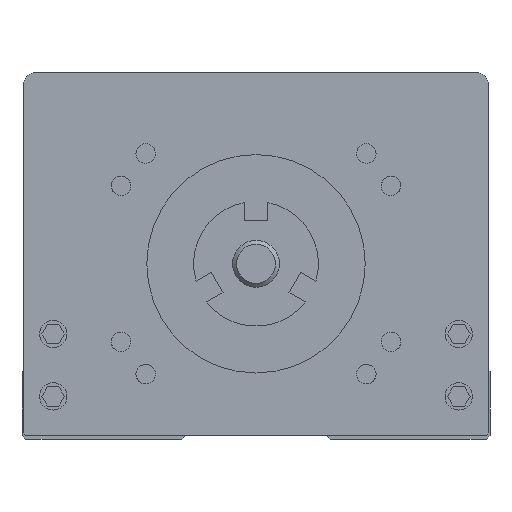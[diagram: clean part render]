
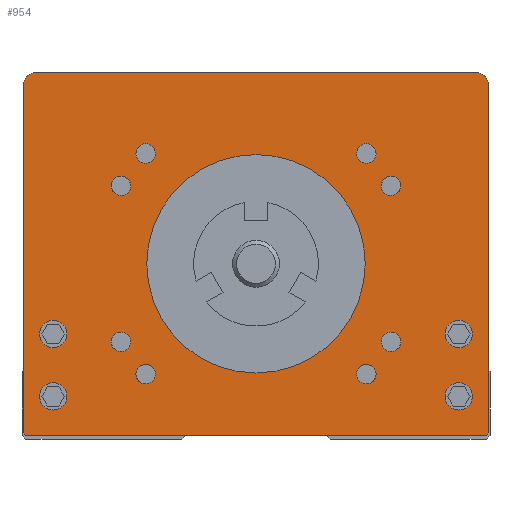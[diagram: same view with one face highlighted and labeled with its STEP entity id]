
A CAD part, front view. The second image highlights one B-rep face of the part: STEP entity #954.
In plain terms, the highlighted planar face has unit normal (0, -1, 0).
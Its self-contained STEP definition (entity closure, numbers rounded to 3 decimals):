
#646=FACE_BOUND('',#2184,.T.);
#647=FACE_BOUND('',#2185,.T.);
#648=FACE_BOUND('',#2186,.T.);
#649=FACE_BOUND('',#2187,.T.);
#650=FACE_BOUND('',#2188,.T.);
#651=FACE_BOUND('',#2189,.T.);
#652=FACE_BOUND('',#2190,.T.);
#653=FACE_BOUND('',#2191,.T.);
#654=FACE_BOUND('',#2192,.T.);
#655=FACE_BOUND('',#2193,.T.);
#656=FACE_BOUND('',#2194,.T.);
#657=FACE_BOUND('',#2195,.T.);
#658=FACE_BOUND('',#2196,.T.);
#659=FACE_BOUND('',#2197,.T.);
#954=ADVANCED_FACE('',(#646,#647,#648,#649,#650,#651,#652,#653,#654,#655,
#656,#657,#658,#659),#1438,.F.);
#1438=PLANE('',#9078);
#2184=EDGE_LOOP('',(#3418));
#2185=EDGE_LOOP('',(#3419));
#2186=EDGE_LOOP('',(#3420));
#2187=EDGE_LOOP('',(#3421));
#2188=EDGE_LOOP('',(#3422));
#2189=EDGE_LOOP('',(#3423));
#2190=EDGE_LOOP('',(#3424));
#2191=EDGE_LOOP('',(#3425));
#2192=EDGE_LOOP('',(#3426,#3427,#3428,#3429,#3430,#3431,#3432,#3433));
#2193=EDGE_LOOP('',(#3434));
#2194=EDGE_LOOP('',(#3435));
#2195=EDGE_LOOP('',(#3436));
#2196=EDGE_LOOP('',(#3437));
#2197=EDGE_LOOP('',(#3438));
#2841=CIRCLE('',#9061,1.25);
#2842=CIRCLE('',#9062,1.25);
#2843=CIRCLE('',#9063,1.25);
#2844=CIRCLE('',#9064,1.25);
#2845=CIRCLE('',#9065,1.25);
#2846=CIRCLE('',#9066,1.25);
#2847=CIRCLE('',#9067,1.25);
#2848=CIRCLE('',#9068,1.25);
#2849=CIRCLE('',#9069,0.5);
#2850=CIRCLE('',#9070,1.5);
#2851=CIRCLE('',#9071,1.5);
#2852=CIRCLE('',#9072,0.5);
#2853=CIRCLE('',#9073,1.75);
#2854=CIRCLE('',#9074,1.75);
#2855=CIRCLE('',#9075,1.75);
#2856=CIRCLE('',#9076,1.75);
#2857=CIRCLE('',#9077,14.);
#3418=ORIENTED_EDGE('',*,*,#6411,.F.);
#3419=ORIENTED_EDGE('',*,*,#6412,.F.);
#3420=ORIENTED_EDGE('',*,*,#6413,.F.);
#3421=ORIENTED_EDGE('',*,*,#6414,.F.);
#3422=ORIENTED_EDGE('',*,*,#6415,.F.);
#3423=ORIENTED_EDGE('',*,*,#6416,.F.);
#3424=ORIENTED_EDGE('',*,*,#6417,.F.);
#3425=ORIENTED_EDGE('',*,*,#6418,.F.);
#3426=ORIENTED_EDGE('',*,*,#6229,.T.);
#3427=ORIENTED_EDGE('',*,*,#6419,.T.);
#3428=ORIENTED_EDGE('',*,*,#6390,.T.);
#3429=ORIENTED_EDGE('',*,*,#6420,.T.);
#3430=ORIENTED_EDGE('',*,*,#6421,.F.);
#3431=ORIENTED_EDGE('',*,*,#6422,.T.);
#3432=ORIENTED_EDGE('',*,*,#6423,.T.);
#3433=ORIENTED_EDGE('',*,*,#6424,.T.);
#3434=ORIENTED_EDGE('',*,*,#6425,.F.);
#3435=ORIENTED_EDGE('',*,*,#6426,.F.);
#3436=ORIENTED_EDGE('',*,*,#6427,.F.);
#3437=ORIENTED_EDGE('',*,*,#6428,.F.);
#3438=ORIENTED_EDGE('',*,*,#6429,.F.);
#5438=VERTEX_POINT('',#12348);
#5439=VERTEX_POINT('',#12350);
#5561=VERTEX_POINT('',#12735);
#5562=VERTEX_POINT('',#12737);
#5582=VERTEX_POINT('',#12783);
#5583=VERTEX_POINT('',#12785);
#5584=VERTEX_POINT('',#12787);
#5585=VERTEX_POINT('',#12789);
#5586=VERTEX_POINT('',#12791);
#5587=VERTEX_POINT('',#12793);
#5588=VERTEX_POINT('',#12795);
#5589=VERTEX_POINT('',#12797);
#5590=VERTEX_POINT('',#12800);
#5591=VERTEX_POINT('',#12802);
#5592=VERTEX_POINT('',#12804);
#5593=VERTEX_POINT('',#12806);
#5594=VERTEX_POINT('',#12809);
#5595=VERTEX_POINT('',#12811);
#5596=VERTEX_POINT('',#12813);
#5597=VERTEX_POINT('',#12815);
#5598=VERTEX_POINT('',#12817);
#6229=EDGE_CURVE('',#5439,#5438,#7379,.T.);
#6390=EDGE_CURVE('',#5562,#5561,#7472,.T.);
#6411=EDGE_CURVE('',#5582,#5582,#2841,.T.);
#6412=EDGE_CURVE('',#5583,#5583,#2842,.T.);
#6413=EDGE_CURVE('',#5584,#5584,#2843,.T.);
#6414=EDGE_CURVE('',#5585,#5585,#2844,.T.);
#6415=EDGE_CURVE('',#5586,#5586,#2845,.T.);
#6416=EDGE_CURVE('',#5587,#5587,#2846,.T.);
#6417=EDGE_CURVE('',#5588,#5588,#2847,.T.);
#6418=EDGE_CURVE('',#5589,#5589,#2848,.T.);
#6419=EDGE_CURVE('',#5438,#5562,#2849,.T.);
#6420=EDGE_CURVE('',#5561,#5590,#2850,.T.);
#6421=EDGE_CURVE('',#5591,#5590,#7485,.T.);
#6422=EDGE_CURVE('',#5591,#5592,#2851,.T.);
#6423=EDGE_CURVE('',#5592,#5593,#7486,.T.);
#6424=EDGE_CURVE('',#5593,#5439,#2852,.T.);
#6425=EDGE_CURVE('',#5594,#5594,#2853,.T.);
#6426=EDGE_CURVE('',#5595,#5595,#2854,.T.);
#6427=EDGE_CURVE('',#5596,#5596,#2855,.T.);
#6428=EDGE_CURVE('',#5597,#5597,#2856,.T.);
#6429=EDGE_CURVE('',#5598,#5598,#2857,.T.);
#7379=LINE('',#12349,#8165);
#7472=LINE('',#12736,#8258);
#7485=LINE('',#12801,#8271);
#7486=LINE('',#12805,#8272);
#8165=VECTOR('',#9820,1.);
#8258=VECTOR('',#10135,1.);
#8271=VECTOR('',#10194,1.);
#8272=VECTOR('',#10197,1.);
#9061=AXIS2_PLACEMENT_3D('',#12782,#10174,#10175);
#9062=AXIS2_PLACEMENT_3D('',#12784,#10176,#10177);
#9063=AXIS2_PLACEMENT_3D('',#12786,#10178,#10179);
#9064=AXIS2_PLACEMENT_3D('',#12788,#10180,#10181);
#9065=AXIS2_PLACEMENT_3D('',#12790,#10182,#10183);
#9066=AXIS2_PLACEMENT_3D('',#12792,#10184,#10185);
#9067=AXIS2_PLACEMENT_3D('',#12794,#10186,#10187);
#9068=AXIS2_PLACEMENT_3D('',#12796,#10188,#10189);
#9069=AXIS2_PLACEMENT_3D('',#12798,#10190,#10191);
#9070=AXIS2_PLACEMENT_3D('',#12799,#10192,#10193);
#9071=AXIS2_PLACEMENT_3D('',#12803,#10195,#10196);
#9072=AXIS2_PLACEMENT_3D('',#12807,#10198,#10199);
#9073=AXIS2_PLACEMENT_3D('',#12808,#10200,#10201);
#9074=AXIS2_PLACEMENT_3D('',#12810,#10202,#10203);
#9075=AXIS2_PLACEMENT_3D('',#12812,#10204,#10205);
#9076=AXIS2_PLACEMENT_3D('',#12814,#10206,#10207);
#9077=AXIS2_PLACEMENT_3D('',#12816,#10208,#10209);
#9078=AXIS2_PLACEMENT_3D('',#12818,#10210,#10211);
#9820=DIRECTION('',(1.,0.,0.));
#10135=DIRECTION('',(0.,0.,1.));
#10174=DIRECTION('',(0.,-1.,0.));
#10175=DIRECTION('',(0.,0.,1.));
#10176=DIRECTION('',(0.,-1.,0.));
#10177=DIRECTION('',(0.,0.,1.));
#10178=DIRECTION('',(0.,-1.,0.));
#10179=DIRECTION('',(0.,0.,1.));
#10180=DIRECTION('',(0.,-1.,0.));
#10181=DIRECTION('',(0.,0.,1.));
#10182=DIRECTION('',(0.,-1.,0.));
#10183=DIRECTION('',(0.,0.,1.));
#10184=DIRECTION('',(0.,-1.,0.));
#10185=DIRECTION('',(0.,0.,1.));
#10186=DIRECTION('',(0.,-1.,0.));
#10187=DIRECTION('',(0.,0.,1.));
#10188=DIRECTION('',(0.,-1.,0.));
#10189=DIRECTION('',(0.,0.,1.));
#10190=DIRECTION('',(0.,-1.,0.));
#10191=DIRECTION('',(0.,0.,1.));
#10192=DIRECTION('',(0.,-1.,0.));
#10193=DIRECTION('',(1.,0.,0.));
#10194=DIRECTION('',(1.,0.,0.));
#10195=DIRECTION('',(0.,-1.,0.));
#10196=DIRECTION('',(0.,0.,1.));
#10197=DIRECTION('',(0.,0.,-1.));
#10198=DIRECTION('',(0.,-1.,0.));
#10199=DIRECTION('',(0.,0.,1.));
#10200=DIRECTION('',(0.,-1.,0.));
#10201=DIRECTION('',(-1.,0.,0.));
#10202=DIRECTION('',(0.,-1.,0.));
#10203=DIRECTION('',(-1.,0.,0.));
#10204=DIRECTION('',(0.,-1.,0.));
#10205=DIRECTION('',(-1.,0.,0.));
#10206=DIRECTION('',(0.,-1.,0.));
#10207=DIRECTION('',(-1.,0.,0.));
#10208=DIRECTION('',(0.,-1.,0.));
#10209=DIRECTION('',(-1.,0.,0.));
#10210=DIRECTION('',(0.,1.,0.));
#10211=DIRECTION('',(1.,0.,0.));
#12348=CARTESIAN_POINT('',(29.3,50.,0.));
#12349=CARTESIAN_POINT('',(-28.3,50.,0.));
#12350=CARTESIAN_POINT('',(-29.3,50.,0.));
#12735=CARTESIAN_POINT('',(29.8,50.,45.));
#12736=CARTESIAN_POINT('',(29.8,50.,1.5));
#12737=CARTESIAN_POINT('',(29.8,50.,0.5));
#12782=CARTESIAN_POINT('',(-14.142,50.,36.142));
#12783=CARTESIAN_POINT('',(-14.142,50.,37.392));
#12784=CARTESIAN_POINT('',(14.142,50.,36.142));
#12785=CARTESIAN_POINT('',(14.142,50.,37.392));
#12786=CARTESIAN_POINT('',(14.142,50.,7.858));
#12787=CARTESIAN_POINT('',(14.142,50.,9.108));
#12788=CARTESIAN_POINT('',(-14.142,50.,7.858));
#12789=CARTESIAN_POINT('',(-14.142,50.,9.108));
#12790=CARTESIAN_POINT('',(-17.321,50.,32.));
#12791=CARTESIAN_POINT('',(-17.321,50.,33.25));
#12792=CARTESIAN_POINT('',(17.321,50.,32.));
#12793=CARTESIAN_POINT('',(17.321,50.,33.25));
#12794=CARTESIAN_POINT('',(17.321,50.,12.));
#12795=CARTESIAN_POINT('',(17.321,50.,13.25));
#12796=CARTESIAN_POINT('',(-17.321,50.,12.));
#12797=CARTESIAN_POINT('',(-17.321,50.,13.25));
#12798=CARTESIAN_POINT('',(29.3,50.,0.5));
#12799=CARTESIAN_POINT('',(28.3,50.,45.));
#12800=CARTESIAN_POINT('',(28.3,50.,46.5));
#12801=CARTESIAN_POINT('',(-28.3,50.,46.5));
#12802=CARTESIAN_POINT('',(-28.3,50.,46.5));
#12803=CARTESIAN_POINT('',(-28.3,50.,45.));
#12804=CARTESIAN_POINT('',(-29.8,50.,45.));
#12805=CARTESIAN_POINT('',(-29.8,50.,42.5));
#12806=CARTESIAN_POINT('',(-29.8,50.,0.5));
#12807=CARTESIAN_POINT('',(-29.3,50.,0.5));
#12808=CARTESIAN_POINT('',(-26.,50.,13.));
#12809=CARTESIAN_POINT('',(-27.75,50.,13.));
#12810=CARTESIAN_POINT('',(-26.,50.,5.));
#12811=CARTESIAN_POINT('',(-27.75,50.,5.));
#12812=CARTESIAN_POINT('',(26.,50.,5.));
#12813=CARTESIAN_POINT('',(24.25,50.,5.));
#12814=CARTESIAN_POINT('',(26.,50.,13.));
#12815=CARTESIAN_POINT('',(24.25,50.,13.));
#12816=CARTESIAN_POINT('',(0.,50.,22.));
#12817=CARTESIAN_POINT('',(-14.,50.,22.));
#12818=CARTESIAN_POINT('',(0.,50.,-28.5));
